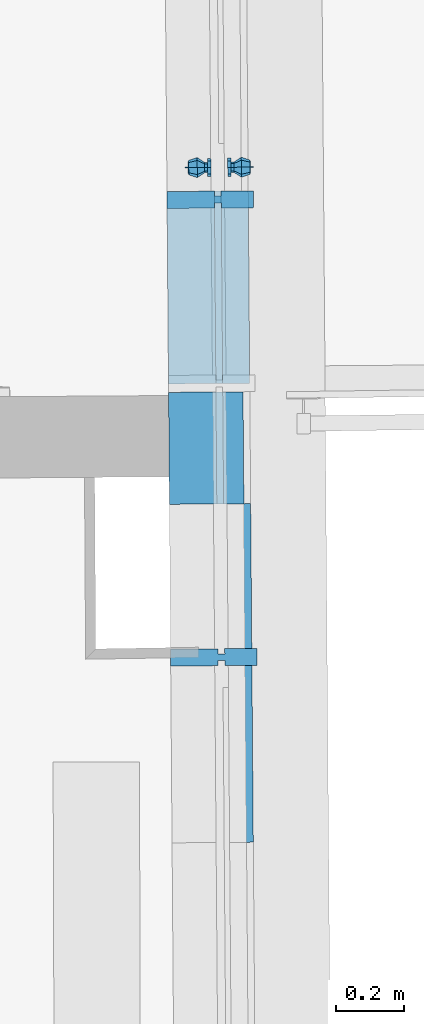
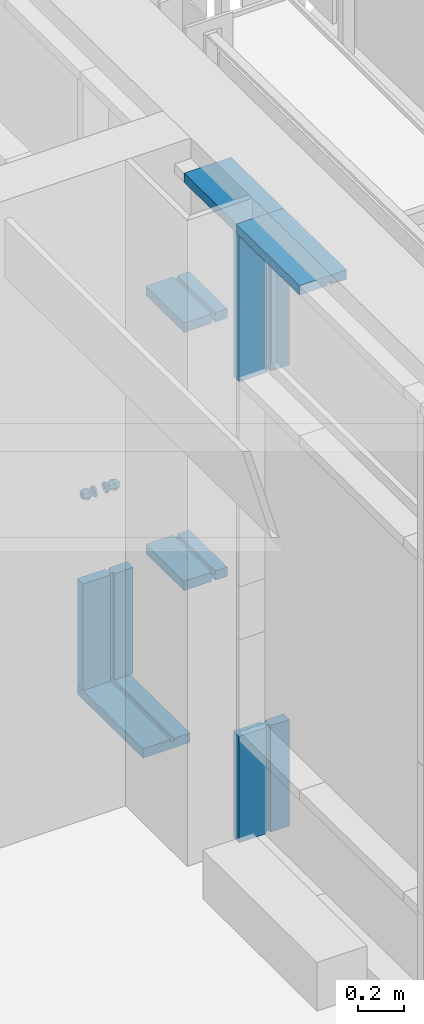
# One storey, part 131 of 158: 9 building element parts, 1 element without a shape of its own.
"""IFC2X3 building model written with IfcOpenShell, lengths in metres."""

from ifc_helpers import new_model, entity, si_unit, converted_unit, derived_unit, money_unit, direction, frame, origin_with_axes, place, context, subcontext, project, spatial, open_shell, faceted_brep, surface_model, material, type_object, element, aggregate, save


model = new_model("IFC2X3")

# Units and contexts
model_context = context("Model", 3, precision=1e-05, world=origin_with_axes(), true_north=direction((0.0, 1.0)))
body_context = subcontext(model_context, "Body", "Model", "MODEL_VIEW")
ifc_project = project(units=[si_unit("LENGTHUNIT", "METRE"), si_unit("AREAUNIT", "SQUARE_METRE"), si_unit("VOLUMEUNIT", "CUBIC_METRE"), converted_unit("PLANEANGLEUNIT", "DEGREE", entity("IfcPlaneAngleMeasure", 0.0174532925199), si_unit("PLANEANGLEUNIT", "RADIAN"), dimensions=[0, 0, 0, 0, 0, 0, 0]), money_unit("EUR"), converted_unit("TIMEUNIT", "Year", entity("IfcTimeMeasure", 31556926.0), si_unit("TIMEUNIT", "SECOND"), dimensions=[0, 0, 1, 0, 0, 0, 0]), si_unit("MASSUNIT", "GRAM", prefix="KILO"), si_unit("THERMODYNAMICTEMPERATUREUNIT", "DEGREE_CELSIUS"), si_unit("LUMINOUSINTENSITYUNIT", "LUMEN"), si_unit("ENERGYUNIT", "JOULE", prefix="MEGA"), derived_unit("THERMALCONDUCTANCEUNIT", [(si_unit("POWERUNIT", "WATT"), 1), (si_unit("LENGTHUNIT", "METRE"), -1), (si_unit("THERMODYNAMICTEMPERATUREUNIT", "KELVIN"), -1)]), derived_unit("SPECIFICHEATCAPACITYUNIT", [(si_unit("ENERGYUNIT", "JOULE"), 1), (si_unit("MASSUNIT", "GRAM", prefix="KILO"), -1), (si_unit("THERMODYNAMICTEMPERATUREUNIT", "KELVIN"), -1)]), derived_unit("MASSDENSITYUNIT", [(si_unit("MASSUNIT", "GRAM", prefix="KILO"), 1), (si_unit("VOLUMEUNIT", "CUBIC_METRE"), -1)])], contexts=[model_context])

# Site, building, storey
site_placement = place(None, origin_with_axes())
site = spatial("IfcSite", under=ifc_project, at=site_placement, Name="Gelände", CompositionType="ELEMENT")
building_placement = place(site_placement, origin_with_axes())
building = spatial("IfcBuilding", under=site, at=building_placement, Name="Gebäude", CompositionType="ELEMENT")
storey_placement = place(building_placement, origin_with_axes())
storey = spatial("IfcBuildingStorey", under=building, at=storey_placement, Name="ERDGESCHOSS", CompositionType="ELEMENT", Elevation=0.0)

# Proxy, building element parts
building_element_proxy_type = type_object("IfcBuildingElementProxyType", Name="Fassadentyp", PredefinedType="NOTDEFINED")
proxy_placement = place(storey_placement, frame((-15.5457352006, 40.9565245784, 1.34043905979), z_axis=(0.0, 0.0, 1.0), x_axis=(1.0, 0.0, 0.0)))
proxy = element("IfcBuildingElementProxy", 1, at=proxy_placement, inside=storey, type_object=building_element_proxy_type, Name="Fassade-002")
ifc_material_1 = material(Name="54_Metall, Edelstahl")
building_element_part_1_placement = place(proxy_placement, origin_with_axes())
building_element_part_1 = element("IfcBuildingElementPart", 2, at=building_element_part_1_placement, material=ifc_material_1, Name="54_Metall, Edelstahl", context=body_context, shape_type="SurfaceModel", body=[
    surface_model("IfcShellBasedSurfaceModel", [(-0.103387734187, 2.33540682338, 1.008), (-0.105422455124, 2.33188844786, 1.0115024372), (-0.105511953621, 2.34339053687, 1.01626690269), (-0.103449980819, 2.34340658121, 1.0113137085), (-0.103361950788, 2.33209321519, 1.0), (-0.105385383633, 2.3271241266, 1.0), (-0.103344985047, 2.32839861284, 1.01500833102), (-0.103461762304, 2.34340648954, 1.02122498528), (-0.105601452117, 2.35489262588, 1.0115024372), (-0.103512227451, 2.35140633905, 1.008), (-0.10353801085, 2.35471994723, 1.0), (-0.103512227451, 2.35140633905, 0.992), (-0.103449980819, 2.34340658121, 0.988686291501), (-0.103387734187, 2.33540682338, 0.992), (-0.105422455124, 2.33188844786, 0.988497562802), (-0.103296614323, 2.32218214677, 1.0), (-0.0781510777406, 2.32255983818, 1.02104295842), (-0.0783148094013, 2.3436021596, 1.02975923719), (-0.103578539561, 2.35841436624, 1.01500833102), (-0.105638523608, 2.35965694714, 1.0), (-0.105601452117, 2.35489262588, 0.988497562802), (-0.105511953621, 2.34339053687, 0.983733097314), (-0.103344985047, 2.32839861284, 0.98499166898), (-0.0780832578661, 2.31384382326, 1.0), (-0.0561556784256, 2.33316765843, 1.01060660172), (-0.0562382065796, 2.34377393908, 1.015), (-0.078478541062, 2.36464448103, 1.02104295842), (-0.103626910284, 2.36463083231, 1.0), (-0.103578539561, 2.35841436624, 0.98499166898), (-0.103461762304, 2.34340648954, 0.978775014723), (-0.0781510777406, 2.32255983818, 0.978957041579), (-0.0561214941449, 2.32877439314, 1.0), (-0.056135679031, 2.33316781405, 1.01060660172), (-0.056218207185, 2.34377409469, 1.015), (-0.0563207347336, 2.35438021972, 1.01060660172), (-0.0785463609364, 2.37336049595, 1.0), (-0.078478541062, 2.36464448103, 0.978957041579), (-0.0783148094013, 2.3436021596, 0.970240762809), (-0.0561556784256, 2.33316765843, 0.989393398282), (-0.0561014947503, 2.32877454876, 1.0), (-0.0482559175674, 2.33322912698, 1.01060660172), (-0.0483384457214, 2.34383540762, 1.015), (-0.0563007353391, 2.35438037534, 1.01060660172), (-0.0563549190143, 2.35877348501, 1.0), (-0.0563207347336, 2.35438021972, 0.989393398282), (-0.0562382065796, 2.34377393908, 0.985), (-0.056135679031, 2.33316781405, 0.989393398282), (-0.0482217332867, 2.32883586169, 1.0), (-0.0481559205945, 2.33322990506, 1.01060660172), (-0.0482384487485, 2.34383618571, 1.015), (-0.0484209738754, 2.35444168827, 1.01060660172), (-0.0563349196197, 2.35877364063, 1.0), (-0.0563007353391, 2.35438037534, 0.989393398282), (-0.056218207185, 2.34377409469, 0.985), (-0.0482559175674, 2.33322912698, 0.989393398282), (-0.0481217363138, 2.32883663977, 1.0), (-0.0481553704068, 2.33315919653, 1.0106773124), (-0.0482384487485, 2.34383618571, 1.0151), (-0.0483209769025, 2.35444246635, 1.01060660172), (-0.0484551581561, 2.35883495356, 1.0), (-0.0484209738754, 2.35444168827, 0.989393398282), (-0.0483384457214, 2.34383540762, 0.985), (-0.0481559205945, 2.33322990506, 0.989393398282), (-0.0481209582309, 2.3287366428, 1.0), (-0.0480904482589, 2.32481558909, 1.01902117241), (-0.0482384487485, 2.34383618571, 1.0269), (-0.0483215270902, 2.35451317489, 1.0106773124), (-0.0483551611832, 2.35883573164, 1.0), (-0.0483209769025, 2.35444246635, 0.989393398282), (-0.0482384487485, 2.34383618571, 0.985), (-0.0481553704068, 2.33315919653, 0.989322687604), (-0.0480291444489, 2.316937, 1.0), (-0.0480898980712, 2.32474488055, 1.01909188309), (-0.0482384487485, 2.34383618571, 1.027), (-0.048386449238, 2.36285678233, 1.01902117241), (-0.0483559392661, 2.35893572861, 1.0), (-0.0483215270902, 2.35451317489, 0.989322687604), (-0.0482384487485, 2.34383618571, 0.9849), (-0.0480904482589, 2.32481558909, 0.980978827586), (-0.048028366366, 2.31683700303, 1.0), (-0.0479899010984, 2.32474565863, 1.01909188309), (-0.0481384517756, 2.34383696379, 1.027), (-0.0483869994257, 2.36292749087, 1.01909188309), (-0.048447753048, 2.37073537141, 1.0), (-0.048386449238, 2.36285678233, 0.980978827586), (-0.0482384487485, 2.34383618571, 0.9731), (-0.0480898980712, 2.32474488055, 0.980908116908), (-0.0479283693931, 2.31683778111, 1.0), (-0.0380902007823, 2.32482268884, 1.01909188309), (-0.0382387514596, 2.343913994, 1.027), (-0.0482870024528, 2.36292826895, 1.01909188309), (-0.0484485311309, 2.37083536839, 1.0), (-0.0483869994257, 2.36292749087, 0.980908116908), (-0.0482384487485, 2.34383618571, 0.973), (-0.0479899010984, 2.32474565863, 0.980908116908), (-0.0380286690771, 2.31691481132, 1.0), (-0.0383873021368, 2.36300529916, 1.01909188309), (-0.048348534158, 2.37083614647, 1.0), (-0.0482870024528, 2.36292826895, 0.980908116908), (-0.0481384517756, 2.34383696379, 0.973), (-0.0380902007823, 2.32482268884, 0.980908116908), (-0.038448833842, 2.37091317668, 1.0), (-0.0383873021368, 2.36300529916, 0.980908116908), (-0.0382387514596, 2.343913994, 0.973)], [open_shell([[[0, 1, 2, 3]], [[4, 5, 1, 0]], [[1, 6, 7, 2]], [[3, 2, 8, 9]], [[3, 9, 10, 11, 12, 13, 4, 0]], [[13, 14, 5, 4]], [[5, 15, 6, 1]], [[6, 16, 17, 7]], [[2, 7, 18, 8]], [[9, 8, 19, 10]], [[10, 19, 20, 11]], [[11, 20, 21, 12]], [[12, 21, 14, 13]], [[14, 22, 15, 5]], [[15, 23, 16, 6]], [[16, 24, 25, 17]], [[7, 17, 26, 18]], [[8, 18, 27, 19]], [[19, 27, 28, 20]], [[20, 28, 29, 21]], [[21, 29, 22, 14]], [[22, 30, 23, 15]], [[23, 31, 24, 16]], [[24, 32, 33, 25]], [[17, 25, 34, 26]], [[18, 26, 35, 27]], [[27, 35, 36, 28]], [[28, 36, 37, 29]], [[29, 37, 30, 22]], [[30, 38, 31, 23]], [[31, 39, 32, 24]], [[32, 40, 41, 33]], [[25, 33, 42, 34]], [[26, 34, 43, 35]], [[35, 43, 44, 36]], [[36, 44, 45, 37]], [[37, 45, 38, 30]], [[38, 46, 39, 31]], [[39, 47, 40, 32]], [[40, 48, 49, 41]], [[33, 41, 50, 42]], [[34, 42, 51, 43]], [[43, 51, 52, 44]], [[44, 52, 53, 45]], [[45, 53, 46, 38]], [[46, 54, 47, 39]], [[47, 55, 48, 40]], [[48, 56, 57, 49]], [[41, 49, 58, 50]], [[42, 50, 59, 51]], [[51, 59, 60, 52]], [[52, 60, 61, 53]], [[53, 61, 54, 46]], [[54, 62, 55, 47]], [[55, 63, 56, 48]], [[56, 64, 65, 57]], [[49, 57, 66, 58]], [[50, 58, 67, 59]], [[59, 67, 68, 60]], [[60, 68, 69, 61]], [[61, 69, 62, 54]], [[62, 70, 63, 55]], [[63, 71, 64, 56]], [[64, 72, 73, 65]], [[57, 65, 74, 66]], [[58, 66, 75, 67]], [[67, 75, 76, 68]], [[68, 76, 77, 69]], [[69, 77, 70, 62]], [[70, 78, 71, 63]], [[71, 79, 72, 64]], [[72, 80, 81, 73]], [[65, 73, 82, 74]], [[66, 74, 83, 75]], [[75, 83, 84, 76]], [[76, 84, 85, 77]], [[77, 85, 78, 70]], [[78, 86, 79, 71]], [[79, 87, 80, 72]], [[80, 88, 89, 81]], [[73, 81, 90, 82]], [[74, 82, 91, 83]], [[83, 91, 92, 84]], [[84, 92, 93, 85]], [[85, 93, 86, 78]], [[86, 94, 87, 79]], [[87, 95, 88, 80]], [[81, 89, 96, 90]], [[82, 90, 97, 91]], [[91, 97, 98, 92]], [[92, 98, 99, 93]], [[93, 99, 94, 86]], [[94, 100, 95, 87]], [[90, 96, 101, 97]], [[97, 101, 102, 98]], [[98, 102, 103, 99]], [[99, 103, 100, 94]]])]),
    faceted_brep([(-0.103507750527, 2.35083097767, 0.992575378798), (-0.103531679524, 2.35390626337, 1.0), (-0.103507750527, 2.35083097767, 1.0074246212), (-0.103449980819, 2.34340658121, 1.0105), (-0.103392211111, 2.33598218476, 1.0074246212), (-0.103368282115, 2.33290689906, 1.0), (-0.103392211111, 2.33598218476, 0.992575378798), (-0.103449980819, 2.34340658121, 0.9895), (-0.10500770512, 2.35081930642, 0.992575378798), (-0.105031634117, 2.35389459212, 1.0), (-0.10500770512, 2.35081930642, 1.0074246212), (-0.104949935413, 2.34339490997, 1.0105), (-0.104892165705, 2.33597051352, 1.0074246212), (-0.104868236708, 2.33289522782, 1.0), (-0.104892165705, 2.33597051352, 0.992575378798), (-0.104949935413, 2.34339490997, 0.9895)], [[[0, 1, 2, 3, 4, 5, 6, 7]], [[0, 8, 9, 1]], [[1, 9, 10, 2]], [[2, 10, 11, 3]], [[3, 11, 12, 4]], [[4, 12, 13, 5]], [[5, 13, 14, 6]], [[6, 14, 15, 7]], [[7, 15, 8, 0]], [[8, 15, 14, 13, 12, 11, 10, 9]]]),
    faceted_brep([(-0.104961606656, 2.34489486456, 0.99), (-0.104938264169, 2.34189495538, 0.99), (-0.112009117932, 2.34183993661, 0.992928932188), (-0.112032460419, 2.34483984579, 0.992928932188), (-0.104961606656, 2.34489486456, 1.01), (-0.104938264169, 2.34189495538, 1.01), (-0.112009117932, 2.34183993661, 1.00707106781), (-0.114937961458, 2.34181714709, 1.0), (-0.114961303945, 2.34481705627, 1.0), (-0.112032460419, 2.34483984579, 1.00707106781)], [[[0, 1, 2, 3]], [[4, 5, 1, 0]], [[1, 5, 6, 7, 2]], [[3, 2, 7, 8]], [[0, 3, 8, 9, 4]], [[9, 6, 5, 4]], [[8, 7, 6, 9]]]),
    surface_model("IfcShellBasedSurfaceModel", [(0.0770332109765, 2.3368106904, 1.008), (0.0769709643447, 2.34481044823, 1.0113137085), (0.0790329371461, 2.34482649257, 1.01626690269), (0.0791224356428, 2.33332440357, 1.0115024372), (0.0770589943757, 2.33349708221, 1.0), (0.0770332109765, 2.3368106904, 0.992), (0.0769709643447, 2.34481044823, 0.988686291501), (0.0769087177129, 2.35281020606, 0.992), (0.0768829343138, 2.35612381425, 1.0), (0.0769087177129, 2.35281020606, 1.008), (0.0789434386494, 2.35632858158, 1.0115024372), (0.0769827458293, 2.3448105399, 1.02122498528), (0.0770995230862, 2.3298026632, 1.01500833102), (0.0791595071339, 2.3285600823, 1.0), (0.0791224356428, 2.33332440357, 0.988497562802), (0.0790329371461, 2.34482649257, 0.983733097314), (0.0789434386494, 2.35632858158, 0.988497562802), (0.0789063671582, 2.36109290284, 1.0), (0.0768659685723, 2.3598184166, 1.01500833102), (0.0518357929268, 2.34461486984, 1.02975923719), (0.0519995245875, 2.32357254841, 1.02104295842), (0.0771478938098, 2.32358619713, 1.0), (0.0770995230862, 2.3298026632, 0.98499166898), (0.0769827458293, 2.3448105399, 0.978775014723), (0.0768659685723, 2.3598184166, 0.98499166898), (0.0768175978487, 2.36603488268, 1.0), (0.0516720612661, 2.36565719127, 1.02104295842), (0.0297591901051, 2.34444309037, 1.015), (0.0298417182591, 2.33383680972, 1.01060660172), (0.0520673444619, 2.31485653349, 1.0), (0.0519995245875, 2.32357254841, 0.978957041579), (0.0518357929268, 2.34461486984, 0.970240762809), (0.0516720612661, 2.36565719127, 0.978957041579), (0.0516042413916, 2.37437320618, 1.0), (0.0296766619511, 2.35504937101, 1.01060660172), (0.0297391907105, 2.34444293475, 1.015), (0.0298217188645, 2.33383665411, 1.01060660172), (0.0298759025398, 2.32944354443, 1.0), (0.0298417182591, 2.33383680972, 0.989393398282), (0.0297591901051, 2.34444309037, 0.985), (0.0296766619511, 2.35504937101, 0.989393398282), (0.0296424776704, 2.3594426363, 1.0), (0.0296566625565, 2.3550492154, 1.01060660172), (0.0218594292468, 2.34438162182, 1.015), (0.0219419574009, 2.33377534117, 1.01060660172), (0.0298559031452, 2.32944338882, 1.0), (0.0298217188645, 2.33383665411, 0.989393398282), (0.0297391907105, 2.34444293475, 0.985), (0.0296566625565, 2.3550492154, 0.989393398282), (0.0296224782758, 2.35944248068, 1.0), (0.0217769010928, 2.35498790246, 1.01060660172), (0.021759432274, 2.34438084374, 1.015), (0.021841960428, 2.33377456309, 1.01060660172), (0.0219761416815, 2.32938207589, 1.0), (0.0219419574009, 2.33377534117, 0.989393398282), (0.0218594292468, 2.34438162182, 0.985), (0.0217769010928, 2.35498790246, 0.989393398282), (0.0217427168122, 2.35938116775, 1.0), (0.0216769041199, 2.35498712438, 1.01060660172), (0.021759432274, 2.34438084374, 1.0151), (0.0218425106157, 2.33370385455, 1.0106773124), (0.0218761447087, 2.3293812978, 1.0), (0.021841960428, 2.33377456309, 0.989393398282), (0.021759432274, 2.34438084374, 0.985), (0.0216769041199, 2.35498712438, 0.989393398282), (0.0216427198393, 2.35938038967, 1.0), (0.0216763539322, 2.35505783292, 1.0106773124), (0.021759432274, 2.34438084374, 1.0269), (0.0219074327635, 2.32536024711, 1.01902117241), (0.0218769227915, 2.32928130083, 1.0), (0.0218425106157, 2.33370385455, 0.989322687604), (0.021759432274, 2.34438084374, 0.9849), (0.0216763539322, 2.35505783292, 0.989322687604), (0.0216419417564, 2.35948038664, 1.0), (0.0216114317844, 2.36340144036, 1.01902117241), (0.021759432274, 2.34438084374, 1.027), (0.0219079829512, 2.32528953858, 1.01909188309), (0.0219687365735, 2.31748165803, 1.0), (0.0219074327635, 2.32536024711, 0.980978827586), (0.021759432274, 2.34438084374, 0.9731), (0.0216114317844, 2.36340144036, 0.980978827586), (0.0215501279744, 2.37128002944, 1.0), (0.0216108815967, 2.3634721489, 1.01909188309), (0.0216594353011, 2.34438006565, 1.027), (0.0218079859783, 2.32528876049, 1.01909188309), (0.0219695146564, 2.31738166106, 1.0), (0.0219079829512, 2.32528953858, 0.980908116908), (0.021759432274, 2.34438084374, 0.973), (0.0216108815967, 2.3634721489, 0.980908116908), (0.0215493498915, 2.37138002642, 1.0), (0.0215108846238, 2.36347137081, 1.01909188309), (0.011759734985, 2.34430303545, 1.027), (0.0119082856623, 2.32521173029, 1.01909188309), (0.0218695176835, 2.31738088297, 1.0), (0.0218079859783, 2.32528876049, 0.980908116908), (0.0216594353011, 2.34438006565, 0.973), (0.0215108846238, 2.36347137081, 0.980908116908), (0.0214493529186, 2.37137924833, 1.0), (0.0116111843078, 2.36339434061, 1.01909188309), (0.0119698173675, 2.31730385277, 1.0), (0.0119082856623, 2.32521173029, 0.980908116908), (0.011759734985, 2.34430303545, 0.973), (0.0116111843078, 2.36339434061, 0.980908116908), (0.0115496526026, 2.37130221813, 1.0)], [open_shell([[[0, 1, 2, 3]], [[1, 0, 4, 5, 6, 7, 8, 9]], [[1, 9, 10, 2]], [[3, 2, 11, 12]], [[4, 0, 3, 13]], [[5, 4, 13, 14]], [[6, 5, 14, 15]], [[7, 6, 15, 16]], [[8, 7, 16, 17]], [[9, 8, 17, 10]], [[2, 10, 18, 11]], [[12, 11, 19, 20]], [[13, 3, 12, 21]], [[14, 13, 21, 22]], [[15, 14, 22, 23]], [[16, 15, 23, 24]], [[17, 16, 24, 25]], [[10, 17, 25, 18]], [[11, 18, 26, 19]], [[20, 19, 27, 28]], [[21, 12, 20, 29]], [[22, 21, 29, 30]], [[23, 22, 30, 31]], [[24, 23, 31, 32]], [[25, 24, 32, 33]], [[18, 25, 33, 26]], [[19, 26, 34, 27]], [[28, 27, 35, 36]], [[29, 20, 28, 37]], [[30, 29, 37, 38]], [[31, 30, 38, 39]], [[32, 31, 39, 40]], [[33, 32, 40, 41]], [[26, 33, 41, 34]], [[27, 34, 42, 35]], [[36, 35, 43, 44]], [[37, 28, 36, 45]], [[38, 37, 45, 46]], [[39, 38, 46, 47]], [[40, 39, 47, 48]], [[41, 40, 48, 49]], [[34, 41, 49, 42]], [[35, 42, 50, 43]], [[44, 43, 51, 52]], [[45, 36, 44, 53]], [[46, 45, 53, 54]], [[47, 46, 54, 55]], [[48, 47, 55, 56]], [[49, 48, 56, 57]], [[42, 49, 57, 50]], [[43, 50, 58, 51]], [[52, 51, 59, 60]], [[53, 44, 52, 61]], [[54, 53, 61, 62]], [[55, 54, 62, 63]], [[56, 55, 63, 64]], [[57, 56, 64, 65]], [[50, 57, 65, 58]], [[51, 58, 66, 59]], [[60, 59, 67, 68]], [[61, 52, 60, 69]], [[62, 61, 69, 70]], [[63, 62, 70, 71]], [[64, 63, 71, 72]], [[65, 64, 72, 73]], [[58, 65, 73, 66]], [[59, 66, 74, 67]], [[68, 67, 75, 76]], [[69, 60, 68, 77]], [[70, 69, 77, 78]], [[71, 70, 78, 79]], [[72, 71, 79, 80]], [[73, 72, 80, 81]], [[66, 73, 81, 74]], [[67, 74, 82, 75]], [[76, 75, 83, 84]], [[77, 68, 76, 85]], [[78, 77, 85, 86]], [[79, 78, 86, 87]], [[80, 79, 87, 88]], [[81, 80, 88, 89]], [[74, 81, 89, 82]], [[75, 82, 90, 83]], [[84, 83, 91, 92]], [[85, 76, 84, 93]], [[86, 85, 93, 94]], [[87, 86, 94, 95]], [[88, 87, 95, 96]], [[89, 88, 96, 97]], [[82, 89, 97, 90]], [[83, 90, 98, 91]], [[93, 84, 92, 99]], [[94, 93, 99, 100]], [[95, 94, 100, 101]], [[96, 95, 101, 102]], [[97, 96, 102, 103]], [[90, 97, 103, 98]]])]),
    faceted_brep([(0.0769131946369, 2.35223484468, 0.992575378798), (0.0769709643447, 2.34481044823, 0.9895), (0.0770287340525, 2.33738605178, 0.992575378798), (0.077052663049, 2.33431076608, 1.0), (0.0770287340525, 2.33738605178, 1.0074246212), (0.0769709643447, 2.34481044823, 1.0105), (0.0769131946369, 2.35223484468, 1.0074246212), (0.0768892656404, 2.35531013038, 1.0), (0.0784131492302, 2.35224651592, 0.992575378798), (0.078470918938, 2.34482211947, 0.9895), (0.0785286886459, 2.33739772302, 0.992575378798), (0.0785526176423, 2.33432243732, 1.0), (0.0785286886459, 2.33739772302, 1.0074246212), (0.078470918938, 2.34482211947, 1.0105), (0.0784131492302, 2.35224651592, 1.0074246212), (0.0783892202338, 2.35532180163, 1.0)], [[[0, 1, 2, 3, 4, 5, 6, 7]], [[1, 0, 8, 9]], [[2, 1, 9, 10]], [[3, 2, 10, 11]], [[4, 3, 11, 12]], [[5, 4, 12, 13]], [[6, 5, 13, 14]], [[7, 6, 14, 15]], [[0, 7, 15, 8]], [[8, 15, 14, 13, 12, 11, 10, 9]]]),
    faceted_brep([(0.0784592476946, 2.34632207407, 0.99), (0.0855301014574, 2.34637709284, 0.992928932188), (0.0855534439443, 2.34337718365, 0.992928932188), (0.0784825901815, 2.34332216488, 0.99), (0.0784592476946, 2.34632207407, 1.01), (0.0855301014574, 2.34637709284, 1.00707106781), (0.0884589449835, 2.34639988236, 1.0), (0.0884822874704, 2.34339997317, 1.0), (0.0855534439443, 2.34337718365, 1.00707106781), (0.0784825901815, 2.34332216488, 1.01)], [[[0, 1, 2, 3]], [[0, 4, 5, 6, 1]], [[1, 6, 7, 2]], [[3, 2, 7, 8, 9]], [[4, 0, 3, 9]], [[5, 4, 9, 8]], [[6, 5, 8, 7]]]),
])
ifc_material_2 = material(Name="53_Metall, Aluminium")
building_element_part_2_placement = place(proxy_placement, origin_with_axes())
building_element_part_2 = element("IfcBuildingElementPart", 3, at=building_element_part_2_placement, material=ifc_material_2, Name="53_Metall, Aluminium", context=body_context, shape_type="Brep", body=[
    faceted_brep([(-0.02050389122, 1.34989093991, 1.12681093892), (-0.000504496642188, 1.35004655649, 1.12681093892), (-0.000504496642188, 1.35004655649, 1.11181093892), (0.0594936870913, 1.35051340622, 1.11181093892), (0.0594936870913, 1.35051340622, 1.16181093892), (-0.000504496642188, 1.35004655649, 1.16181093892), (-0.000504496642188, 1.35004655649, 1.14681093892), (-0.02050389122, 1.34989093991, 1.14681093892), (-0.02050389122, 1.34989093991, 1.16181093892), (-0.160499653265, 1.34880162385, 1.16181093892), (-0.160499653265, 1.34880162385, 1.11181093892), (-0.02050389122, 1.34989093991, 1.11181093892), (-0.0230779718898, 1.68070437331, 1.12681093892), (-0.00307857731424, 1.68085999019, 1.12681093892), (-0.00307857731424, 1.68085999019, 1.11181093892), (0.0569196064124, 1.68132684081, 1.11181093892), (0.0569196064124, 1.68132684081, 1.16181093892), (-0.00307857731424, 1.68085999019, 1.16181093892), (-0.00307857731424, 1.68085999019, 1.14681093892), (-0.0230779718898, 1.68070437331, 1.14681093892), (-0.0230779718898, 1.68070437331, 1.16181093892), (-0.163073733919, 1.67961505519, 1.16181093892), (-0.163073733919, 1.67961505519, 1.11181093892), (-0.0230779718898, 1.68070437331, 1.11181093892)], [[[0, 1, 2, 3, 4, 5, 6, 7, 8, 9, 10, 11]], [[0, 12, 13, 1]], [[1, 13, 14, 2]], [[14, 15, 3, 2]], [[4, 3, 15, 16]], [[17, 5, 4, 16]], [[5, 17, 18, 6]], [[7, 6, 18, 19]], [[8, 7, 19, 20]], [[8, 20, 21, 9]], [[10, 9, 21, 22]], [[11, 10, 22, 23]], [[11, 23, 12, 0]], [[13, 12, 23, 22, 21, 20, 19, 18, 17, 16, 15, 14]]]),
])
building_element_part_3_placement = place(proxy_placement, origin_with_axes())
building_element_part_3 = element("IfcBuildingElementPart", 4, at=building_element_part_3_placement, material=ifc_material_2, Name="53_Metall, Aluminium", context=body_context, shape_type="Brep", body=[
    faceted_brep([(-0.0205038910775, 1.34989092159, 2.50999994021), (-0.000504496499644, 1.35004653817, 2.50999994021), (-0.000504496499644, 1.35004653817, 2.49499994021), (0.0594936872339, 1.35051338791, 2.49499994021), (0.0594936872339, 1.35051338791, 2.54499994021), (-0.000504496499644, 1.35004653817, 2.54499994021), (-0.000504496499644, 1.35004653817, 2.52999994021), (-0.0205038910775, 1.34989092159, 2.52999994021), (-0.0205038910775, 1.34989092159, 2.54499994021), (-0.160499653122, 1.34880160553, 2.54499994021), (-0.160499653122, 1.34880160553, 2.49499994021), (-0.0205038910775, 1.34989092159, 2.49499994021), (-0.0230779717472, 1.68070435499, 2.50999994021), (-0.0030785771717, 1.68085997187, 2.50999994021), (-0.0030785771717, 1.68085997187, 2.49499994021), (0.0569196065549, 1.68132682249, 2.49499994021), (0.0569196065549, 1.68132682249, 2.54499994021), (-0.0030785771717, 1.68085997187, 2.54499994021), (-0.0030785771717, 1.68085997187, 2.52999994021), (-0.0230779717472, 1.68070435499, 2.52999994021), (-0.0230779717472, 1.68070435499, 2.54499994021), (-0.163073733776, 1.67961503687, 2.54499994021), (-0.163073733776, 1.67961503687, 2.49499994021), (-0.0230779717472, 1.68070435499, 2.49499994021)], [[[0, 1, 2, 3, 4, 5, 6, 7, 8, 9, 10, 11]], [[0, 12, 13, 1]], [[1, 13, 14, 2]], [[14, 15, 3, 2]], [[4, 3, 15, 16]], [[17, 5, 4, 16]], [[5, 17, 18, 6]], [[7, 6, 18, 19]], [[8, 7, 19, 20]], [[8, 20, 21, 9]], [[10, 9, 21, 22]], [[11, 10, 22, 23]], [[11, 23, 12, 0]], [[13, 12, 23, 22, 21, 20, 19, 18, 17, 16, 15, 14]]]),
])
building_element_part_4_placement = place(proxy_placement, origin_with_axes())
building_element_part_4 = element("IfcBuildingElementPart", 5, at=building_element_part_4_placement, material=ifc_material_2, Name="53_Metall, Aluminium", context=body_context, shape_type="Brep", body=[
    faceted_brep([(-0.0232724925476, 1.70570360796, 0.035), (-0.0232724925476, 1.70570360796, 0.05), (-0.163268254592, 1.70461429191, 0.05), (-0.163268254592, 1.70461429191, 0.0), (0.0767244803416, 1.70648169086, 0.0), (0.0767244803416, 1.70648169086, 0.05), (-0.00327309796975, 1.70585922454, 0.05), (-0.00327309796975, 1.70585922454, 0.035), (-0.027694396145, 2.27399392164, 0.035), (-0.027694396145, 2.27399392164, 0.05), (-0.16769015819, 2.27290460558, 0.05), (-0.16769015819, 2.27290460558, 0.0), (0.0723025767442, 2.27477200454, 0.0), (0.0723025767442, 2.27477200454, 0.05), (-0.00769500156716, 2.27414953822, 0.05), (-0.00769500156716, 2.27414953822, 0.035)], [[[0, 1, 2, 3, 4, 5, 6, 7]], [[0, 8, 9, 1]], [[9, 10, 2, 1]], [[10, 11, 3, 2]], [[11, 12, 4, 3]], [[12, 13, 5, 4]], [[6, 5, 13, 14]], [[14, 15, 7, 6]], [[7, 15, 8, 0]], [[8, 15, 14, 13, 12, 11, 10, 9]]]),
])
building_element_part_5_placement = place(proxy_placement, origin_with_axes())
building_element_part_5 = element("IfcBuildingElementPart", 6, at=building_element_part_5_placement, material=ifc_material_2, Name="53_Metall, Aluminium", context=body_context, shape_type="Brep", body=[
    faceted_brep([(-0.0274220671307, 2.23899498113, 0.619999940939), (-0.00742267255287, 2.23915059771, 0.619999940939), (-0.00730596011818, 2.22415105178, 0.619999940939), (0.0876911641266, 2.22489023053, 0.619999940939), (0.0873021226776, 2.27488871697, 0.619999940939), (-0.00769500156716, 2.27414953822, 0.619999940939), (-0.00757828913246, 2.25914999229, 0.619999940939), (-0.0275776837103, 2.25899437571, 0.619999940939), (-0.027694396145, 2.27399392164, 0.619999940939), (-0.16769015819, 2.27290460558, 0.619999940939), (-0.167301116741, 2.22290611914, 0.619999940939), (-0.027305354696, 2.2239954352, 0.619999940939), (-0.0274220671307, 2.23899498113, 0.0500000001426), (-0.00742267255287, 2.23915059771, 0.0499999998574), (-0.00730596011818, 2.22415105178, 0.0499999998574), (0.0876911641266, 2.22489023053, 0.0499999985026), (0.0873021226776, 2.27488871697, 0.0499999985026), (-0.00769500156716, 2.27414953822, 0.0499999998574), (-0.00757828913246, 2.25914999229, 0.0499999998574), (-0.0275776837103, 2.25899437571, 0.0500000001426), (-0.027694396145, 2.27399392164, 0.0500000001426), (-0.16769015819, 2.27290460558, 0.0500000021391), (-0.167301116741, 2.22290611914, 0.0500000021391), (-0.027305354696, 2.2239954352, 0.0500000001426)], [[[0, 1, 2, 3, 4, 5, 6, 7, 8, 9, 10, 11]], [[0, 12, 13, 1]], [[1, 13, 14, 2]], [[14, 15, 3, 2]], [[4, 3, 15, 16]], [[17, 5, 4, 16]], [[5, 17, 18, 6]], [[7, 6, 18, 19]], [[8, 7, 19, 20]], [[8, 20, 21, 9]], [[10, 9, 21, 22]], [[11, 10, 22, 23]], [[11, 23, 12, 0]], [[13, 12, 23, 22, 21, 20, 19, 18, 17, 16, 15, 14]]]),
])
building_element_part_6_placement = place(proxy_placement, origin_with_axes())
building_element_part_6 = element("IfcBuildingElementPart", 7, at=building_element_part_6_placement, material=ifc_material_2, Name="53_Metall, Aluminium", context=body_context, shape_type="Brep", body=[
    faceted_brep([(-0.0169030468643, 0.887120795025, 0.619999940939), (0.00309634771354, 0.887276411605, 0.619999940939), (0.00321306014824, 0.872276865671, 0.619999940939), (0.098210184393, 0.873016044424, 0.619999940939), (0.097821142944, 0.923014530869, 0.619999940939), (0.00282401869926, 0.922275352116, 0.619999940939), (0.00294073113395, 0.907275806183, 0.619999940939), (-0.0170586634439, 0.907120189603, 0.619999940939), (-0.0171753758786, 0.922119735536, 0.619999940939), (-0.157171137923, 0.921030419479, 0.619999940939), (-0.156782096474, 0.871031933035, 0.619999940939), (-0.0167863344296, 0.872121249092, 0.619999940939), (-0.0169030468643, 0.887120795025, 0.0500000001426), (0.00309634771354, 0.887276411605, 0.0499999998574), (0.00321306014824, 0.872276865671, 0.0499999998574), (0.098210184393, 0.873016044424, 0.0499999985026), (0.097821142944, 0.923014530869, 0.0499999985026), (0.00282401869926, 0.922275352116, 0.0499999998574), (0.00294073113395, 0.907275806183, 0.0499999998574), (-0.0170586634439, 0.907120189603, 0.0500000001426), (-0.0171753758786, 0.922119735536, 0.0500000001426), (-0.157171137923, 0.921030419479, 0.0500000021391), (-0.156782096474, 0.871031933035, 0.0500000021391), (-0.0167863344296, 0.872121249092, 0.0500000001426)], [[[0, 1, 2, 3, 4, 5, 6, 7, 8, 9, 10, 11]], [[0, 12, 13, 1]], [[1, 13, 14, 2]], [[14, 15, 3, 2]], [[4, 3, 15, 16]], [[17, 5, 4, 16]], [[5, 17, 18, 6]], [[7, 6, 18, 19]], [[8, 7, 19, 20]], [[8, 20, 21, 9]], [[10, 9, 21, 22]], [[11, 10, 22, 23]], [[11, 23, 12, 0]], [[13, 12, 23, 22, 21, 20, 19, 18, 17, 16, 15, 14]]]),
])
building_element_part_7_placement = place(proxy_placement, origin_with_axes())
building_element_part_7 = element("IfcBuildingElementPart", 8, at=building_element_part_7_placement, material=ifc_material_2, Name="53_Metall, Aluminium", context=body_context, shape_type="Brep", body=[
    faceted_brep([(-0.012723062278, 0.349921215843, 3.31499987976), (0.00727633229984, 0.350076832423, 3.31499987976), (0.00727633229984, 0.350076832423, 3.29999987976), (0.0872739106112, 0.350699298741, 3.29999987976), (0.0872739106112, 0.350699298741, 3.34999987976), (-0.152718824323, 0.348831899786, 3.34999987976), (-0.152718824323, 0.348831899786, 3.29999987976), (-0.012723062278, 0.349921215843, 3.29999987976), (-0.0169808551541, 0.897120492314, 3.31499987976), (0.00301853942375, 0.897276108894, 3.31499987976), (0.00301853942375, 0.897276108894, 3.29999987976), (0.0830161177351, 0.897898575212, 3.29999987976), (0.0830161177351, 0.897898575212, 3.34999987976), (-0.156976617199, 0.896031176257, 3.34999987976), (-0.156976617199, 0.896031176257, 3.29999987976), (-0.0169808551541, 0.897120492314, 3.29999987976)], [[[0, 1, 2, 3, 4, 5, 6, 7]], [[1, 0, 8, 9]], [[10, 2, 1, 9]], [[2, 10, 11, 3]], [[12, 4, 3, 11]], [[13, 5, 4, 12]], [[14, 6, 5, 13]], [[15, 7, 6, 14]], [[0, 7, 15, 8]], [[8, 15, 14, 13, 12, 11, 10, 9]]]),
])
building_element_part_8_placement = place(proxy_placement, origin_with_axes())
building_element_part_8 = element("IfcBuildingElementPart", 9, at=building_element_part_8_placement, material=ifc_material_2, Name="53_Metall, Aluminium", context=body_context, shape_type="Brep", body=[
    faceted_brep([(-0.0169808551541, 0.897120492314, 3.31499987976), (0.00301853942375, 0.897276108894, 3.31499987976), (0.00301853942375, 0.897276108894, 3.29999987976), (0.0830161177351, 0.897898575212, 3.29999987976), (0.0830161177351, 0.897898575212, 3.34999987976), (-0.156976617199, 0.896031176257, 3.34999987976), (-0.156976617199, 0.896031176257, 3.29999987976), (-0.0169808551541, 0.897120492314, 3.29999987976), (-0.0205038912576, 1.34989094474, 3.31499987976), (-0.000504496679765, 1.35004656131, 3.31499987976), (-0.000504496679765, 1.35004656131, 3.29999987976), (0.0794930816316, 1.35066902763, 3.29999987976), (0.0794930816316, 1.35066902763, 3.34999987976), (-0.160499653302, 1.34880162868, 3.34999987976), (-0.160499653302, 1.34880162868, 3.29999987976), (-0.0205038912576, 1.34989094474, 3.29999987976)], [[[0, 1, 2, 3, 4, 5, 6, 7]], [[1, 0, 8, 9]], [[10, 2, 1, 9]], [[2, 10, 11, 3]], [[12, 4, 3, 11]], [[13, 5, 4, 12]], [[14, 6, 5, 13]], [[15, 7, 6, 14]], [[0, 7, 15, 8]], [[8, 15, 14, 13, 12, 11, 10, 9]]]),
])
building_element_part_9_placement = place(proxy_placement, origin_with_axes())
building_element_part_9 = element("IfcBuildingElementPart", 10, at=building_element_part_9_placement, material=ifc_material_2, Name="53_Metall, Aluminium", context=body_context, shape_type="Brep", body=[
    faceted_brep([(-0.0169030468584, 0.88712079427, 3.29999987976), (0.00309634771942, 0.88727641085, 3.29999987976), (0.00321306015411, 0.872276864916, 3.29999987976), (0.0982101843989, 0.873016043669, 3.29999987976), (0.0978211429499, 0.923014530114, 3.29999987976), (0.00282401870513, 0.922275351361, 3.29999987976), (0.00294073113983, 0.907275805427, 3.29999987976), (-0.017058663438, 0.907120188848, 3.29999987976), (-0.0171753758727, 0.922119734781, 3.29999987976), (-0.157171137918, 0.921030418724, 3.29999987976), (-0.156782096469, 0.87103193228, 3.29999987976), (-0.0167863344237, 0.872121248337, 3.29999987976), (-0.0169030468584, 0.88712079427, 2.5199999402), (0.00309634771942, 0.88727641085, 2.5199999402), (0.00321306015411, 0.872276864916, 2.5199999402), (0.0982101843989, 0.873016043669, 2.5199999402), (0.0978211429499, 0.923014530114, 2.5199999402), (0.00282401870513, 0.922275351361, 2.5199999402), (0.00294073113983, 0.907275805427, 2.5199999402), (-0.017058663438, 0.907120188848, 2.5199999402), (-0.0171753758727, 0.922119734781, 2.5199999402), (-0.157171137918, 0.921030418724, 2.5199999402), (-0.156782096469, 0.87103193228, 2.5199999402), (-0.0167863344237, 0.872121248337, 2.5199999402)], [[[0, 1, 2, 3, 4, 5, 6, 7, 8, 9, 10, 11]], [[0, 12, 13, 1]], [[1, 13, 14, 2]], [[14, 15, 3, 2]], [[3, 15, 16, 4]], [[17, 5, 4, 16]], [[5, 17, 18, 6]], [[7, 6, 18, 19]], [[8, 7, 19, 20]], [[8, 20, 21, 9]], [[9, 21, 22, 10]], [[11, 10, 22, 23]], [[11, 23, 12, 0]], [[13, 12, 23, 22, 21, 20, 19, 18, 17, 16, 15, 14]]]),
])
aggregate(proxy, [building_element_part_1, building_element_part_2, building_element_part_3, building_element_part_4, building_element_part_5, building_element_part_6, building_element_part_7, building_element_part_8, building_element_part_9])

save(model, "model.ifc")
